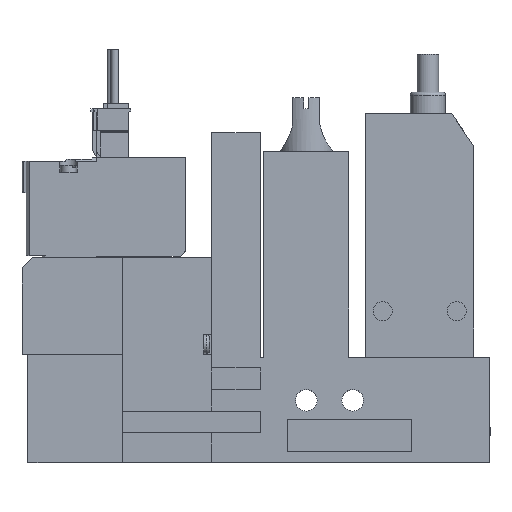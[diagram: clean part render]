
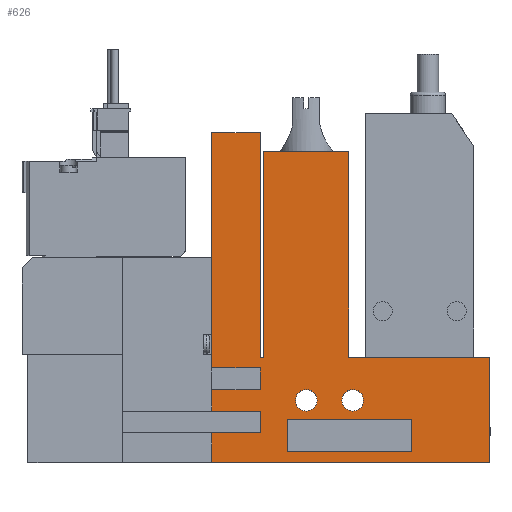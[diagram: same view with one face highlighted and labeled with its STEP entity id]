
A CAD part, top view. The second image highlights one B-rep face of the part: STEP entity #626.
In plain terms, the highlighted planar face has unit normal (0, 0, 1).
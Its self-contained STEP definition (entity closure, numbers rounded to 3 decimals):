
#626=ADVANCED_FACE('',(#1348,#1349,#1350,#1351),#1352,.T.);
#1348=FACE_OUTER_BOUND('',#2170,.T.);
#1349=FACE_BOUND('',#2171,.T.);
#1350=FACE_BOUND('',#2172,.T.);
#1351=FACE_BOUND('',#2173,.T.);
#1352=PLANE('',#2174);
#2170=EDGE_LOOP('',(#4823,#4824,#4825,#4826,#4827,#4828,#4829,#4830,#4831,#4832,#4833,#4834,#4835,#4836,#4837,#4838,#4839,#4840));
#2171=EDGE_LOOP('',(#4841,#4842,#4843,#4844));
#2172=EDGE_LOOP('',(#4845));
#2173=EDGE_LOOP('',(#4846));
#2174=AXIS2_PLACEMENT_3D('',#4847,#4848,#4849);
#4823=ORIENTED_EDGE('',*,*,#6191,.T.);
#4824=ORIENTED_EDGE('',*,*,#6241,.T.);
#4825=ORIENTED_EDGE('',*,*,#6242,.T.);
#4826=ORIENTED_EDGE('',*,*,#6243,.T.);
#4827=ORIENTED_EDGE('',*,*,#6244,.T.);
#4828=ORIENTED_EDGE('',*,*,#6245,.T.);
#4829=ORIENTED_EDGE('',*,*,#6246,.T.);
#4830=ORIENTED_EDGE('',*,*,#6247,.T.);
#4831=ORIENTED_EDGE('',*,*,#6169,.T.);
#4832=ORIENTED_EDGE('',*,*,#6231,.T.);
#4833=ORIENTED_EDGE('',*,*,#6217,.T.);
#4834=ORIENTED_EDGE('',*,*,#6248,.T.);
#4835=ORIENTED_EDGE('',*,*,#6249,.T.);
#4836=ORIENTED_EDGE('',*,*,#6250,.T.);
#4837=ORIENTED_EDGE('',*,*,#6251,.T.);
#4838=ORIENTED_EDGE('',*,*,#6252,.T.);
#4839=ORIENTED_EDGE('',*,*,#6176,.T.);
#4840=ORIENTED_EDGE('',*,*,#6172,.T.);
#4841=ORIENTED_EDGE('',*,*,#6197,.T.);
#4842=ORIENTED_EDGE('',*,*,#6253,.T.);
#4843=ORIENTED_EDGE('',*,*,#6163,.T.);
#4844=ORIENTED_EDGE('',*,*,#6254,.T.);
#4845=ORIENTED_EDGE('',*,*,#6255,.T.);
#4846=ORIENTED_EDGE('',*,*,#6256,.T.);
#4847=CARTESIAN_POINT('',(0.0,0.0,10.0));
#4848=DIRECTION('',(0.0,0.0,1.0));
#4849=DIRECTION('',(1.0,0.0,0.0));
#6163=EDGE_CURVE('',#7638,#7643,#7645,.T.);
#6169=EDGE_CURVE('',#7651,#7655,#7657,.T.);
#6172=EDGE_CURVE('',#7663,#7661,#7664,.T.);
#6176=EDGE_CURVE('',#7670,#7663,#7671,.T.);
#6191=EDGE_CURVE('',#7661,#7696,#7698,.T.);
#6197=EDGE_CURVE('',#7703,#7708,#7710,.T.);
#6217=EDGE_CURVE('',#7744,#7742,#7745,.T.);
#6231=EDGE_CURVE('',#7655,#7744,#7766,.T.);
#6241=EDGE_CURVE('',#7696,#7781,#7782,.T.);
#6242=EDGE_CURVE('',#7781,#7783,#7784,.T.);
#6243=EDGE_CURVE('',#7783,#7785,#7786,.T.);
#6244=EDGE_CURVE('',#7785,#7787,#7788,.T.);
#6245=EDGE_CURVE('',#7787,#7789,#7790,.T.);
#6246=EDGE_CURVE('',#7789,#7791,#7792,.T.);
#6247=EDGE_CURVE('',#7791,#7651,#7793,.T.);
#6248=EDGE_CURVE('',#7742,#7794,#7795,.T.);
#6249=EDGE_CURVE('',#7794,#7796,#7797,.T.);
#6250=EDGE_CURVE('',#7796,#7798,#7799,.T.);
#6251=EDGE_CURVE('',#7798,#7800,#7801,.T.);
#6252=EDGE_CURVE('',#7800,#7670,#7802,.T.);
#6253=EDGE_CURVE('',#7708,#7638,#7803,.T.);
#6254=EDGE_CURVE('',#7643,#7703,#7804,.T.);
#6255=EDGE_CURVE('',#7805,#7805,#7806,.T.);
#6256=EDGE_CURVE('',#7807,#7807,#7808,.T.);
#7638=VERTEX_POINT('',#10001);
#7643=VERTEX_POINT('',#10008);
#7645=LINE('',#10011,#10012);
#7651=VERTEX_POINT('',#10018);
#7655=VERTEX_POINT('',#10024);
#7657=LINE('',#10027,#10028);
#7661=VERTEX_POINT('',#10033);
#7663=VERTEX_POINT('',#10036);
#7664=LINE('',#10037,#10038);
#7670=VERTEX_POINT('',#10046);
#7671=LINE('',#10047,#10048);
#7696=VERTEX_POINT('',#10086);
#7698=LINE('',#10089,#10090);
#7703=VERTEX_POINT('',#10095);
#7708=VERTEX_POINT('',#10102);
#7710=LINE('',#10105,#10106);
#7742=VERTEX_POINT('',#10154);
#7744=VERTEX_POINT('',#10157);
#7745=LINE('',#10158,#10159);
#7766=LINE('',#10190,#10191);
#7781=VERTEX_POINT('',#10214);
#7782=LINE('',#10215,#10216);
#7783=VERTEX_POINT('',#10217);
#7784=LINE('',#10218,#10219);
#7785=VERTEX_POINT('',#10220);
#7786=LINE('',#10221,#10222);
#7787=VERTEX_POINT('',#10223);
#7788=LINE('',#10224,#10225);
#7789=VERTEX_POINT('',#10226);
#7790=LINE('',#10227,#10228);
#7791=VERTEX_POINT('',#10229);
#7792=LINE('',#10230,#10231);
#7793=LINE('',#10232,#10233);
#7794=VERTEX_POINT('',#10234);
#7795=LINE('',#10235,#10236);
#7796=VERTEX_POINT('',#10237);
#7797=LINE('',#10238,#10239);
#7798=VERTEX_POINT('',#10240);
#7799=LINE('',#10241,#10242);
#7800=VERTEX_POINT('',#10243);
#7801=LINE('',#10244,#10245);
#7802=LINE('',#10246,#10247);
#7803=LINE('',#10248,#10249);
#7804=LINE('',#10250,#10251);
#7805=VERTEX_POINT('',#10252);
#7806=CIRCLE('',#10253,2.0);
#7807=VERTEX_POINT('',#10254);
#7808=CIRCLE('',#10255,2.0);
#10001=CARTESIAN_POINT('',(72.1,8.0,10.0));
#10008=CARTESIAN_POINT('',(72.1,2.0,10.0));
#10011=CARTESIAN_POINT('',(72.1,0.0,10.0));
#10012=VECTOR('',#11473,1.0);
#10018=CARTESIAN_POINT('',(35.1,5.5,10.0));
#10024=CARTESIAN_POINT('',(35.1,0.0,10.0));
#10027=CARTESIAN_POINT('',(35.1,0.0,10.0));
#10028=VECTOR('',#11483,1.0);
#10033=CARTESIAN_POINT('',(35.1,61.0,10.0));
#10036=CARTESIAN_POINT('',(44.1,61.0,10.0));
#10037=CARTESIAN_POINT('',(44.1,61.0,10.0));
#10038=VECTOR('',#11486,1.0);
#10046=CARTESIAN_POINT('',(44.1,19.5,10.0));
#10047=CARTESIAN_POINT('',(44.1,19.5,10.0));
#10048=VECTOR('',#11492,1.0);
#10086=CARTESIAN_POINT('',(35.1,17.5,10.0));
#10089=CARTESIAN_POINT('',(35.1,61.0,10.0));
#10090=VECTOR('',#11507,1.0);
#10095=CARTESIAN_POINT('',(49.1,2.0,10.0));
#10102=CARTESIAN_POINT('',(49.1,8.0,10.0));
#10105=CARTESIAN_POINT('',(49.1,0.0,10.0));
#10106=VECTOR('',#11517,1.0);
#10154=CARTESIAN_POINT('',(86.6,19.5,10.0));
#10157=CARTESIAN_POINT('',(86.6,0.0,10.0));
#10158=CARTESIAN_POINT('',(86.6,0.0,10.0));
#10159=VECTOR('',#11541,1.0);
#10190=CARTESIAN_POINT('',(18.6,0.0,10.0));
#10191=VECTOR('',#11561,1.0);
#10214=CARTESIAN_POINT('',(44.1,17.5,10.0));
#10215=CARTESIAN_POINT('',(0.0,17.5,10.0));
#10216=VECTOR('',#11573,1.0);
#10217=CARTESIAN_POINT('',(44.1,13.5,10.0));
#10218=CARTESIAN_POINT('',(44.1,0.0,10.0));
#10219=VECTOR('',#11574,1.0);
#10220=CARTESIAN_POINT('',(35.1,13.5,10.0));
#10221=CARTESIAN_POINT('',(0.0,13.5,10.0));
#10222=VECTOR('',#11575,1.0);
#10223=CARTESIAN_POINT('',(35.1,9.5,10.0));
#10224=CARTESIAN_POINT('',(35.1,0.0,10.0));
#10225=VECTOR('',#11576,1.0);
#10226=CARTESIAN_POINT('',(44.1,9.5,10.0));
#10227=CARTESIAN_POINT('',(0.0,9.5,10.0));
#10228=VECTOR('',#11577,1.0);
#10229=CARTESIAN_POINT('',(44.1,5.5,10.0));
#10230=CARTESIAN_POINT('',(44.1,0.0,10.0));
#10231=VECTOR('',#11578,1.0);
#10232=CARTESIAN_POINT('',(0.0,5.5,10.0));
#10233=VECTOR('',#11579,1.0);
#10234=CARTESIAN_POINT('',(60.45,19.5,10.0));
#10235=CARTESIAN_POINT('',(86.6,19.5,10.0));
#10236=VECTOR('',#11580,1.0);
#10237=CARTESIAN_POINT('',(60.45,57.5,10.0));
#10238=CARTESIAN_POINT('',(60.45,19.5,10.0));
#10239=VECTOR('',#11581,1.0);
#10240=CARTESIAN_POINT('',(44.75,57.5,10.0));
#10241=CARTESIAN_POINT('',(60.45,57.5,10.0));
#10242=VECTOR('',#11582,1.0);
#10243=CARTESIAN_POINT('',(44.75,19.5,10.0));
#10244=CARTESIAN_POINT('',(44.75,57.5,10.0));
#10245=VECTOR('',#11583,1.0);
#10246=CARTESIAN_POINT('',(44.75,19.5,10.0));
#10247=VECTOR('',#11584,1.0);
#10248=CARTESIAN_POINT('',(0.0,8.0,10.0));
#10249=VECTOR('',#11585,1.0);
#10250=CARTESIAN_POINT('',(0.0,2.0,10.0));
#10251=VECTOR('',#11586,1.0);
#10252=CARTESIAN_POINT('',(54.6,11.5,10.0));
#10253=AXIS2_PLACEMENT_3D('',#11587,#11588,#11589);
#10254=CARTESIAN_POINT('',(63.2,11.5,10.0));
#10255=AXIS2_PLACEMENT_3D('',#11590,#11591,#11592);
#11473=DIRECTION('',(0.0,-1.0,0.0));
#11483=DIRECTION('',(0.0,-1.0,0.0));
#11486=DIRECTION('',(-1.0,0.0,0.0));
#11492=DIRECTION('',(0.0,1.0,0.0));
#11507=DIRECTION('',(0.0,-1.0,0.0));
#11517=DIRECTION('',(0.0,1.0,0.0));
#11541=DIRECTION('',(0.0,1.0,0.0));
#11561=DIRECTION('',(1.0,0.0,0.0));
#11573=DIRECTION('',(1.0,0.0,0.0));
#11574=DIRECTION('',(0.0,-1.0,0.0));
#11575=DIRECTION('',(-1.0,0.0,0.0));
#11576=DIRECTION('',(0.0,-1.0,0.0));
#11577=DIRECTION('',(1.0,0.0,0.0));
#11578=DIRECTION('',(0.0,-1.0,0.0));
#11579=DIRECTION('',(-1.0,0.0,0.0));
#11580=DIRECTION('',(-1.0,0.0,0.0));
#11581=DIRECTION('',(0.0,1.0,0.0));
#11582=DIRECTION('',(-1.0,0.0,0.0));
#11583=DIRECTION('',(0.0,-1.0,0.0));
#11584=DIRECTION('',(-1.0,0.0,0.0));
#11585=DIRECTION('',(1.0,0.0,0.0));
#11586=DIRECTION('',(-1.0,0.0,0.0));
#11587=CARTESIAN_POINT('',(52.6,11.5,10.0));
#11588=DIRECTION('',(0.0,0.0,-1.0));
#11589=DIRECTION('',(1.0,0.0,0.0));
#11590=CARTESIAN_POINT('',(61.2,11.5,10.0));
#11591=DIRECTION('',(0.0,0.0,-1.0));
#11592=DIRECTION('',(1.0,0.0,0.0));
